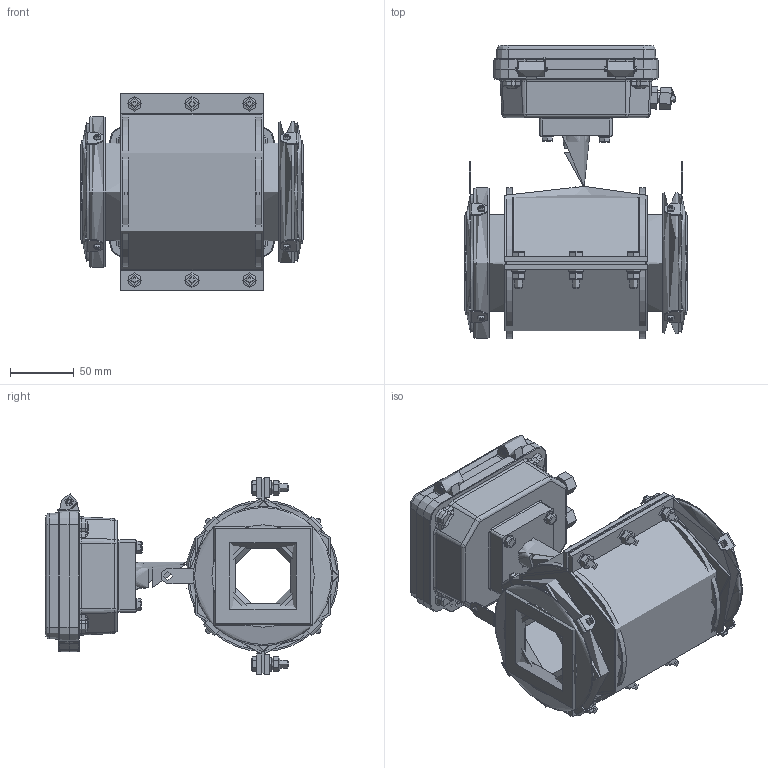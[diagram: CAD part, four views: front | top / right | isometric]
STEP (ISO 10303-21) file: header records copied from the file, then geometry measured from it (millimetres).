
FILE_DESCRIPTION(('STEP AP214'), '1');
FILE_NAME('Âçëåò ÝÌ ÏÐÎÔÈ DN65 Ñýíäâè÷', '', ('UNSPECIFIED'), ('UNSPECIFIED'), 'ASCON STEP Converter 1.6', 'ASCON Math Kernel', '');
FILE_SCHEMA(('AUTOMOTIVE_DESIGN { 1 0 10303 214 3 1 1}'));
Length unit declared in the file: millimetre
Products named in the file (1): 婽挭.407212.031-001.09
Bounding box: 175 x 229.21 x 154 mm (x, y, z)
Topology: 7 solids, 12 shells, 1715 faces, 4161 edges, 2549 vertices
Faces by surface type: plane 877, cylinder 464, cone 175, torus 151, bspline 38, sphere 10
Full cylindrical faces by diameter (mm): 0.8 x2, 2 x2, 3 x4, 3.242 x14, 3.3 x2, 4 x18, 5 x9, 5.5 x1, 6 x16, 6.4 x6, 7 x27, 7.5 x2, 8 x2, 10 x4, 11 x6, 12 x8, 12.5 x2, 16.5 x2, 18 x1, 19 x1, 20 x1, 21 x2, 25 x1, 30 x1, 61 x1, 68 x2, 70 x2, 76 x1, 76.8 x2, 80 x2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
Entity records: 84478 total; most frequent: CARTESIAN_POINT 26403, DIRECTION 8451, ORIENTED_EDGE 7596, EDGE_CURVE 3798, AXIS2_PLACEMENT_3D 3274, VERTEX_POINT 2523, EDGE_LOOP 2231, LINE 1903
